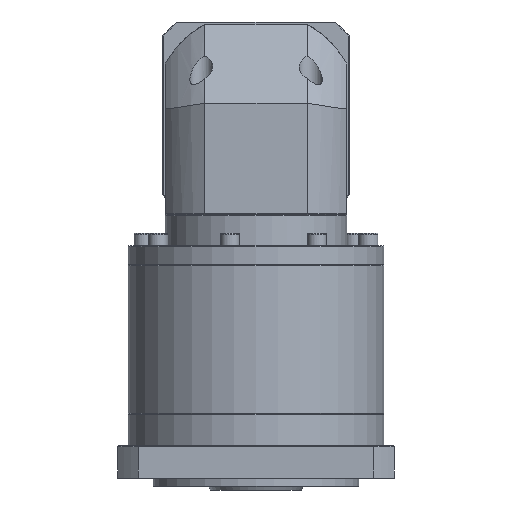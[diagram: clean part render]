
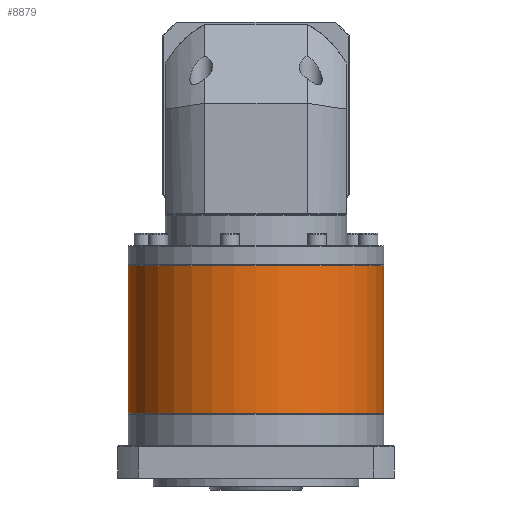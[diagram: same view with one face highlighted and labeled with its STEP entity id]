
A CAD part, front view. The second image highlights one B-rep face of the part: STEP entity #8879.
In plain terms, the highlighted cylindrical face has radius 81 mm (diameter 162 mm), a partial arc.
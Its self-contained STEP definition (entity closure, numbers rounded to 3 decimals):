
#4016 = VECTOR ( 'NONE', #68997, 1000. ) ;
#5933 = ORIENTED_EDGE ( 'NONE', *, *, #13294, .T. ) ;
#8879 = ADVANCED_FACE ( 'NONE', ( #91701 ), #70152, .T. ) ;
#9557 = DIRECTION ( 'NONE',  ( 0., 0., 1. ) ) ;
#10989 = VECTOR ( 'NONE', #105137, 1000. ) ;
#13294 = EDGE_CURVE ( 'NONE', #128732, #89840, #116334, .T. ) ;
#14812 = CARTESIAN_POINT ( 'NONE',  ( -212.004, 98.119, -101.772 ) ) ;
#17367 = AXIS2_PLACEMENT_3D ( 'NONE', #121078, #110899, #27919 ) ;
#17616 = CIRCLE ( 'NONE', #52260, 81. ) ;
#27919 = DIRECTION ( 'NONE',  ( -1., 0., 0. ) ) ;
#35909 = VERTEX_POINT ( 'NONE', #45644 ) ;
#42786 = ORIENTED_EDGE ( 'NONE', *, *, #61011, .T. ) ;
#45644 = CARTESIAN_POINT ( 'NONE',  ( -50.004, 98.119, -195.272 ) ) ;
#45650 = LINE ( 'NONE', #135243, #10989 ) ;
#52260 = AXIS2_PLACEMENT_3D ( 'NONE', #113849, #9557, #115687 ) ;
#53567 = ORIENTED_EDGE ( 'NONE', *, *, #63340, .T. ) ;
#61011 = EDGE_CURVE ( 'NONE', #94925, #128732, #136621, .T. ) ;
#61690 = CARTESIAN_POINT ( 'NONE',  ( -131.004, 98.119, -101.772 ) ) ;
#63340 = EDGE_CURVE ( 'NONE', #89840, #35909, #17616, .T. ) ;
#68997 = DIRECTION ( 'NONE',  ( 0., 0., -1. ) ) ;
#69429 = EDGE_CURVE ( 'NONE', #94925, #35909, #45650, .T. ) ;
#69977 = EDGE_LOOP ( 'NONE', ( #79668, #42786, #5933, #53567 ) ) ;
#70152 = CYLINDRICAL_SURFACE ( 'NONE', #17367, 81. ) ;
#74423 = CARTESIAN_POINT ( 'NONE',  ( -212.004, 98.119, -195.272 ) ) ;
#79630 = CARTESIAN_POINT ( 'NONE',  ( -50.004, 98.119, -101.772 ) ) ;
#79668 = ORIENTED_EDGE ( 'NONE', *, *, #69429, .F. ) ;
#89840 = VERTEX_POINT ( 'NONE', #74423 ) ;
#91701 = FACE_OUTER_BOUND ( 'NONE', #69977, .T. ) ;
#94925 = VERTEX_POINT ( 'NONE', #79630 ) ;
#98765 = AXIS2_PLACEMENT_3D ( 'NONE', #61690, #105039, #104126 ) ;
#104126 = DIRECTION ( 'NONE',  ( -1., 0., 0. ) ) ;
#105039 = DIRECTION ( 'NONE',  ( 0., 0., -1. ) ) ;
#105137 = DIRECTION ( 'NONE',  ( 0., 0., -1. ) ) ;
#110899 = DIRECTION ( 'NONE',  ( 0., 0., -1. ) ) ;
#113849 = CARTESIAN_POINT ( 'NONE',  ( -131.004, 98.119, -195.272 ) ) ;
#115687 = DIRECTION ( 'NONE',  ( -1., 0., 0. ) ) ;
#116334 = LINE ( 'NONE', #121660, #4016 ) ;
#121078 = CARTESIAN_POINT ( 'NONE',  ( -131.004, 98.119, -101.272 ) ) ;
#121660 = CARTESIAN_POINT ( 'NONE',  ( -212.004, 98.119, -101.272 ) ) ;
#128732 = VERTEX_POINT ( 'NONE', #14812 ) ;
#135243 = CARTESIAN_POINT ( 'NONE',  ( -50.004, 98.119, -101.272 ) ) ;
#136621 = CIRCLE ( 'NONE', #98765, 81. ) ;
